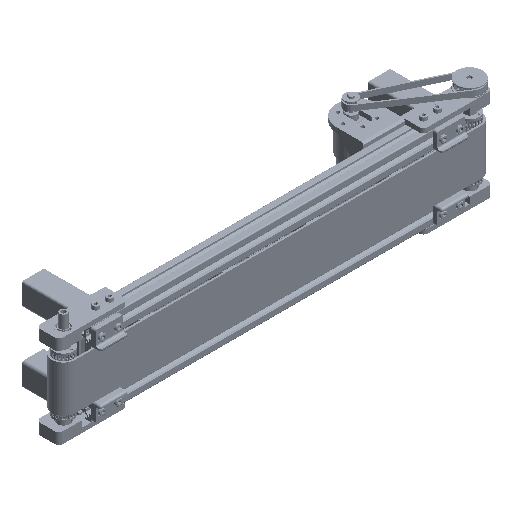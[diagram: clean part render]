
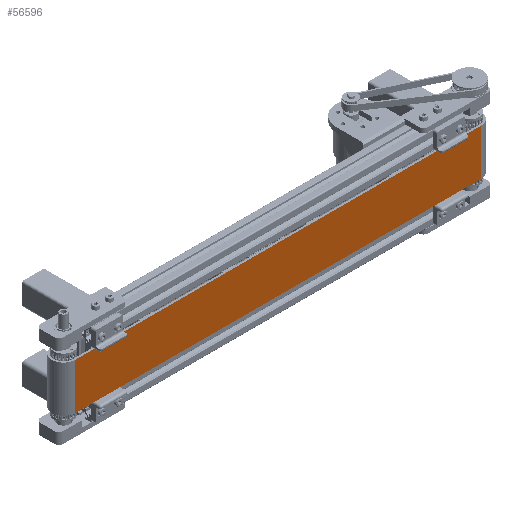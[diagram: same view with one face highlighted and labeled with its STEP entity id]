
A CAD part, isometric view. The second image highlights one B-rep face of the part: STEP entity #56596.
In plain terms, the highlighted planar face has unit normal (0, -1, 0).
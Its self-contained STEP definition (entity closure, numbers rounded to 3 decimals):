
#6746=FACE_OUTER_BOUND('',#10199,.T.);
#10199=EDGE_LOOP('',(#42175,#42176,#42177,#42178));
#16891=LINE('',#87515,#20463);
#16892=LINE('',#87517,#20464);
#16893=LINE('',#87519,#20465);
#16894=LINE('',#87520,#20466);
#20463=VECTOR('',#71417,10.);
#20464=VECTOR('',#71418,10.);
#20465=VECTOR('',#71419,10.);
#20466=VECTOR('',#71420,10.);
#24083=VERTEX_POINT('',#87513);
#24084=VERTEX_POINT('',#87514);
#24085=VERTEX_POINT('',#87516);
#24086=VERTEX_POINT('',#87518);
#30643=EDGE_CURVE('',#24083,#24084,#16891,.T.);
#30644=EDGE_CURVE('',#24083,#24085,#16892,.T.);
#30645=EDGE_CURVE('',#24086,#24085,#16893,.T.);
#30646=EDGE_CURVE('',#24084,#24086,#16894,.T.);
#42175=ORIENTED_EDGE('',*,*,#30643,.F.);
#42176=ORIENTED_EDGE('',*,*,#30644,.T.);
#42177=ORIENTED_EDGE('',*,*,#30645,.F.);
#42178=ORIENTED_EDGE('',*,*,#30646,.F.);
#54747=PLANE('',#61601);
#56596=ADVANCED_FACE('',(#6746),#54747,.T.);
#61601=AXIS2_PLACEMENT_3D('',#87512,#71415,#71416);
#71415=DIRECTION('center_axis',(0.,-1.,0.));
#71416=DIRECTION('ref_axis',(-1.,0.,0.));
#71417=DIRECTION('',(1.,0.,0.));
#71418=DIRECTION('',(0.,0.,-1.));
#71419=DIRECTION('',(-1.,0.,0.));
#71420=DIRECTION('',(0.,0.,-1.));
#87512=CARTESIAN_POINT('Origin',(0.,-12.5,0.));
#87513=CARTESIAN_POINT('',(-440.,-12.5,0.));
#87514=CARTESIAN_POINT('',(0.,-12.5,0.));
#87515=CARTESIAN_POINT('',(-440.,-12.5,0.));
#87516=CARTESIAN_POINT('',(-440.,-12.5,-50.));
#87517=CARTESIAN_POINT('',(-440.,-12.5,0.));
#87518=CARTESIAN_POINT('',(0.,-12.5,-50.));
#87519=CARTESIAN_POINT('',(-440.,-12.5,-50.));
#87520=CARTESIAN_POINT('',(0.,-12.5,0.));
